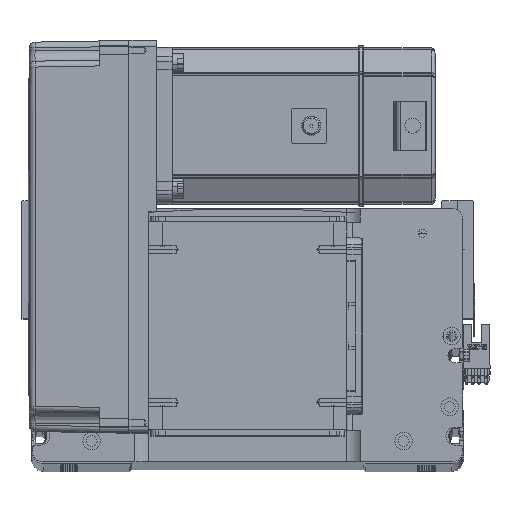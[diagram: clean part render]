
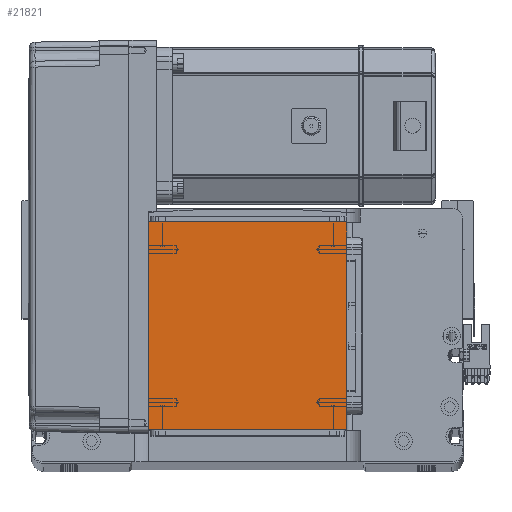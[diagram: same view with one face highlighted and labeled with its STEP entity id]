
A CAD part, top view. The second image highlights one B-rep face of the part: STEP entity #21821.
In plain terms, the highlighted planar face has unit normal (0, 0, 1).
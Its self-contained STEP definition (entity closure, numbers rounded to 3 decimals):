
#417 = VERTEX_POINT ( 'NONE', #49554 ) ;
#6414 = FACE_OUTER_BOUND ( 'NONE', #55346, .T. ) ;
#8842 = CARTESIAN_POINT ( 'NONE',  ( 0., 0., 115. ) ) ;
#11176 = CARTESIAN_POINT ( 'NONE',  ( -50.5, 122., 115. ) ) ;
#12795 = PLANE ( 'NONE',  #30026 ) ;
#17491 = VECTOR ( 'NONE', #54346, 1000. ) ;
#18714 = VECTOR ( 'NONE', #41473, 1000. ) ;
#21821 = ADVANCED_FACE ( 'NONE', ( #6414 ), #12795, .T. ) ;
#26246 = CARTESIAN_POINT ( 'NONE',  ( -50.5, 16., 115. ) ) ;
#26904 = LINE ( 'NONE', #11176, #18714 ) ;
#27826 = CARTESIAN_POINT ( 'NONE',  ( 50.5, 122., 115. ) ) ;
#30026 = AXIS2_PLACEMENT_3D ( 'NONE', #8842, #52189, #43865 ) ;
#34291 = LINE ( 'NONE', #26246, #44462 ) ;
#35156 = ORIENTED_EDGE ( 'NONE', *, *, #47040, .T. ) ;
#35989 = CARTESIAN_POINT ( 'NONE',  ( 50.5, 122., 115. ) ) ;
#36673 = CARTESIAN_POINT ( 'NONE',  ( -50.5, 16., 115. ) ) ;
#37400 = ORIENTED_EDGE ( 'NONE', *, *, #43839, .T. ) ;
#38152 = VECTOR ( 'NONE', #53969, 1000. ) ;
#41473 = DIRECTION ( 'NONE',  ( 0., -1., 0. ) ) ;
#43088 = EDGE_CURVE ( 'NONE', #45191, #49652, #26904, .T. ) ;
#43839 = EDGE_CURVE ( 'NONE', #49652, #417, #34291, .T. ) ;
#43865 = DIRECTION ( 'NONE',  ( 1., 0., 0. ) ) ;
#44462 = VECTOR ( 'NONE', #51987, 1000. ) ;
#45191 = VERTEX_POINT ( 'NONE', #51267 ) ;
#47040 = EDGE_CURVE ( 'NONE', #417, #49073, #54358, .T. ) ;
#49073 = VERTEX_POINT ( 'NONE', #35989 ) ;
#49247 = ORIENTED_EDGE ( 'NONE', *, *, #54960, .T. ) ;
#49554 = CARTESIAN_POINT ( 'NONE',  ( 50.5, 16., 115. ) ) ;
#49652 = VERTEX_POINT ( 'NONE', #36673 ) ;
#51267 = CARTESIAN_POINT ( 'NONE',  ( -50.5, 122., 115. ) ) ;
#51987 = DIRECTION ( 'NONE',  ( 1., 0., 0. ) ) ;
#52189 = DIRECTION ( 'NONE',  ( 0., 0., 1. ) ) ;
#53969 = DIRECTION ( 'NONE',  ( 0., 1., 0. ) ) ;
#54346 = DIRECTION ( 'NONE',  ( -1., 0., 0. ) ) ;
#54358 = LINE ( 'NONE', #27826, #38152 ) ;
#54586 = ORIENTED_EDGE ( 'NONE', *, *, #43088, .T. ) ;
#54748 = CARTESIAN_POINT ( 'NONE',  ( -50.5, 122., 115. ) ) ;
#54818 = LINE ( 'NONE', #54748, #17491 ) ;
#54960 = EDGE_CURVE ( 'NONE', #49073, #45191, #54818, .T. ) ;
#55346 = EDGE_LOOP ( 'NONE', ( #54586, #37400, #35156, #49247 ) ) ;
